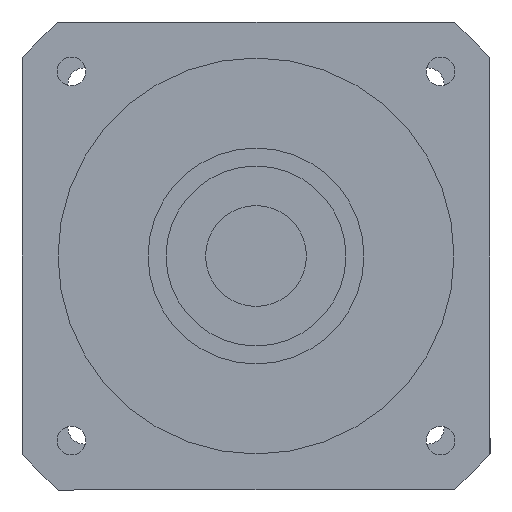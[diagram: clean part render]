
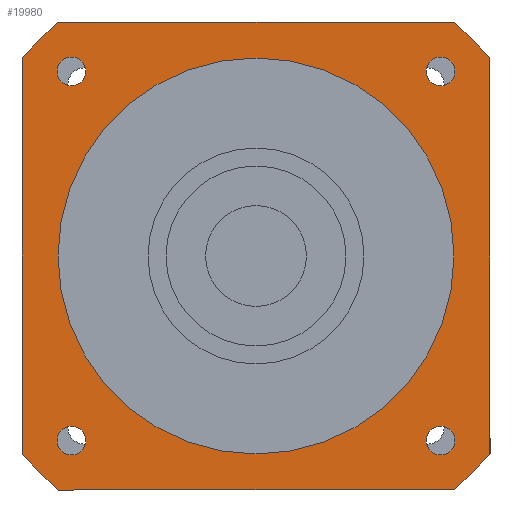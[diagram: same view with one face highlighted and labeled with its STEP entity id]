
A CAD part, left-side view. The second image highlights one B-rep face of the part: STEP entity #19980.
In plain terms, the highlighted planar face has unit normal (-1, 0, 0) as drawn and (0, 0, -1) by its records, which use the part's own axes.
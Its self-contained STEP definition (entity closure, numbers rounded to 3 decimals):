
#15990=CARTESIAN_POINT('',(54.772,65.,-138.));
#16000=VERTEX_POINT('',#15990);
#16150=CARTESIAN_POINT('',(-54.772,65.,-138.));
#16160=VERTEX_POINT('',#16150);
#16190=CARTESIAN_POINT('',(65.,65.,-138.));
#16200=DIRECTION('',(-1.,0.,0.));
#16210=VECTOR('',#16200,1000.);
#16220=LINE('',#16190,#16210);
#16230=EDGE_CURVE('',#16000,#16160,#16220,.T.);
#16390=CARTESIAN_POINT('',(-65.,54.772,-138.));
#16400=VERTEX_POINT('',#16390);
#16550=CARTESIAN_POINT('',(-65.,-54.772,-138.));
#16560=VERTEX_POINT('',#16550);
#16590=CARTESIAN_POINT('',(-65.,65.,-138.));
#16600=DIRECTION('',(0.,-1.,0.));
#16610=VECTOR('',#16600,1000.);
#16620=LINE('',#16590,#16610);
#16630=EDGE_CURVE('',#16400,#16560,#16620,.T.);
#18420=CARTESIAN_POINT('',(0.,0.,
-138.));
#18430=DIRECTION('',(0.,0.,1.));
#18440=DIRECTION('',(0.,-1.,0.));
#18450=AXIS2_PLACEMENT_3D('',#18420,#18430,#18440);
#18460=CIRCLE('',#18450,85.);
#18470=EDGE_CURVE('',#16160,#16400,#18460,.T.);
#18520=CARTESIAN_POINT('',(-65.,65.,-138.));
#18530=DIRECTION('',(0.,0.,1.));
#18540=DIRECTION('',(-1.,0.,0.));
#18550=AXIS2_PLACEMENT_3D('',#18520,#18530,#18540);
#18560=PLANE('',#18550);
#18570=CARTESIAN_POINT('',(51.265,-51.265,-138.));
#18580=DIRECTION('',(0.,0.,-1.));
#18590=DIRECTION('',(1.,0.,0.));
#18600=AXIS2_PLACEMENT_3D('',#18570,#18580,#18590);
#18610=CIRCLE('',#18600,4.);
#18620=CARTESIAN_POINT('',(55.265,-51.265,-138.));
#18630=VERTEX_POINT('',#18620);
#18640=CARTESIAN_POINT('',(51.265,-55.265,-138.));
#18650=VERTEX_POINT('',#18640);
#18660=EDGE_CURVE('',#18630,#18650,#18610,.T.);
#18670=ORIENTED_EDGE('',*,*,#18660,.F.);
#18680=CARTESIAN_POINT('',(51.265,-47.265,-138.));
#18690=VERTEX_POINT('',#18680);
#18700=EDGE_CURVE('',#18650,#18690,#18610,.T.);
#18710=ORIENTED_EDGE('',*,*,#18700,.F.);
#18720=EDGE_CURVE('',#18690,#18630,#18610,.T.);
#18730=ORIENTED_EDGE('',*,*,#18720,.F.);
#18740=EDGE_LOOP('',(#18730,#18710,#18670));
#18750=FACE_BOUND('',#18740,.T.);
#18760=CARTESIAN_POINT('',(51.265,51.265,-138.));
#18770=DIRECTION('',(0.,0.,-1.));
#18780=DIRECTION('',(0.,1.,0.));
#18790=AXIS2_PLACEMENT_3D('',#18760,#18770,#18780);
#18800=CIRCLE('',#18790,4.);
#18810=CARTESIAN_POINT('',(51.265,55.265,-138.));
#18820=VERTEX_POINT('',#18810);
#18830=CARTESIAN_POINT('',(55.265,51.265,-138.));
#18840=VERTEX_POINT('',#18830);
#18850=EDGE_CURVE('',#18820,#18840,#18800,.T.);
#18860=ORIENTED_EDGE('',*,*,#18850,.F.);
#18870=CARTESIAN_POINT('',(47.265,51.265,-138.));
#18880=VERTEX_POINT('',#18870);
#18890=EDGE_CURVE('',#18840,#18880,#18800,.T.);
#18900=ORIENTED_EDGE('',*,*,#18890,.F.);
#18910=EDGE_CURVE('',#18880,#18820,#18800,.T.);
#18920=ORIENTED_EDGE('',*,*,#18910,.F.);
#18930=EDGE_LOOP('',(#18920,#18900,#18860));
#18940=FACE_BOUND('',#18930,.T.);
#18950=CARTESIAN_POINT('',(-51.265,51.265,-138.));
#18960=DIRECTION('',(0.,0.,-1.));
#18970=DIRECTION('',(-1.,0.,0.));
#18980=AXIS2_PLACEMENT_3D('',#18950,#18960,#18970);
#18990=CIRCLE('',#18980,4.);
#19000=CARTESIAN_POINT('',(-55.265,51.265,-138.));
#19010=VERTEX_POINT('',#19000);
#19020=CARTESIAN_POINT('',(-51.265,55.265,-138.));
#19030=VERTEX_POINT('',#19020);
#19040=EDGE_CURVE('',#19010,#19030,#18990,.T.);
#19050=ORIENTED_EDGE('',*,*,#19040,.F.);
#19060=CARTESIAN_POINT('',(-51.265,47.265,-138.));
#19070=VERTEX_POINT('',#19060);
#19080=EDGE_CURVE('',#19030,#19070,#18990,.T.);
#19090=ORIENTED_EDGE('',*,*,#19080,.F.);
#19100=EDGE_CURVE('',#19070,#19010,#18990,.T.);
#19110=ORIENTED_EDGE('',*,*,#19100,.F.);
#19120=EDGE_LOOP('',(#19110,#19090,#19050));
#19130=FACE_BOUND('',#19120,.T.);
#19140=CARTESIAN_POINT('',(-51.265,-51.265,-138.));
#19150=DIRECTION('',(0.,0.,-1.));
#19160=DIRECTION('',(0.,-1.,0.));
#19170=AXIS2_PLACEMENT_3D('',#19140,#19150,#19160);
#19180=CIRCLE('',#19170,4.);
#19190=CARTESIAN_POINT('',(-51.265,-55.265,-138.));
#19200=VERTEX_POINT('',#19190);
#19210=CARTESIAN_POINT('',(-55.265,-51.265,-138.));
#19220=VERTEX_POINT('',#19210);
#19230=EDGE_CURVE('',#19200,#19220,#19180,.T.);
#19240=ORIENTED_EDGE('',*,*,#19230,.F.);
#19250=CARTESIAN_POINT('',(-47.265,-51.265,-138.));
#19260=VERTEX_POINT('',#19250);
#19270=EDGE_CURVE('',#19220,#19260,#19180,.T.);
#19280=ORIENTED_EDGE('',*,*,#19270,.F.);
#19290=EDGE_CURVE('',#19260,#19200,#19180,.T.);
#19300=ORIENTED_EDGE('',*,*,#19290,.F.);
#19310=EDGE_LOOP('',(#19300,#19280,#19240));
#19320=FACE_BOUND('',#19310,.T.);
#19330=CARTESIAN_POINT('',(0.,0.,
-138.));
#19340=DIRECTION('',(0.,0.,1.));
#19350=DIRECTION('',(0.,-1.,0.));
#19360=AXIS2_PLACEMENT_3D('',#19330,#19340,#19350);
#19370=CIRCLE('',#19360,85.);
#19380=CARTESIAN_POINT('',(-54.772,-65.,-138.));
#19390=VERTEX_POINT('',#19380);
#19400=EDGE_CURVE('',#16560,#19390,#19370,.T.);
#19410=ORIENTED_EDGE('',*,*,#19400,.F.);
#19420=CARTESIAN_POINT('',(-65.,-65.,-138.));
#19430=DIRECTION('',(1.,0.,0.));
#19440=VECTOR('',#19430,1000.);
#19450=LINE('',#19420,#19440);
#19460=CARTESIAN_POINT('',(54.772,-65.,-138.));
#19470=VERTEX_POINT('',#19460);
#19480=EDGE_CURVE('',#19390,#19470,#19450,.T.);
#19490=ORIENTED_EDGE('',*,*,#19480,.F.);
#19500=CARTESIAN_POINT('',(0.,0.,
-138.));
#19510=DIRECTION('',(0.,0.,1.));
#19520=DIRECTION('',(0.,-1.,0.));
#19530=AXIS2_PLACEMENT_3D('',#19500,#19510,#19520);
#19540=CIRCLE('',#19530,85.);
#19550=CARTESIAN_POINT('',(65.,-54.772,-138.));
#19560=VERTEX_POINT('',#19550);
#19570=EDGE_CURVE('',#19470,#19560,#19540,.T.);
#19580=ORIENTED_EDGE('',*,*,#19570,.F.);
#19590=CARTESIAN_POINT('',(65.,-65.,-138.));
#19600=DIRECTION('',(0.,1.,0.));
#19610=VECTOR('',#19600,1000.);
#19620=LINE('',#19590,#19610);
#19630=CARTESIAN_POINT('',(65.,54.772,-138.));
#19640=VERTEX_POINT('',#19630);
#19650=EDGE_CURVE('',#19560,#19640,#19620,.T.);
#19660=ORIENTED_EDGE('',*,*,#19650,.F.);
#19670=CARTESIAN_POINT('',(0.,0.,
-138.));
#19680=DIRECTION('',(0.,0.,1.));
#19690=DIRECTION('',(0.,-1.,0.));
#19700=AXIS2_PLACEMENT_3D('',#19670,#19680,#19690);
#19710=CIRCLE('',#19700,85.);
#19720=EDGE_CURVE('',#19640,#16000,#19710,.T.);
#19730=ORIENTED_EDGE('',*,*,#19720,.F.);
#19740=ORIENTED_EDGE('',*,*,#16230,.F.);
#19750=ORIENTED_EDGE('',*,*,#18470,.F.);
#19760=ORIENTED_EDGE('',*,*,#16630,.F.);
#19770=EDGE_LOOP('',(#19760,#19750,#19740,#19730,#19660,#19580,#19490,
#19410));
#19780=FACE_OUTER_BOUND('',#19770,.T.);
#19790=CARTESIAN_POINT('',(0.,0.,
-138.));
#19800=DIRECTION('',(0.,0.,1.));
#19810=DIRECTION('',(0.,-1.,0.));
#19820=AXIS2_PLACEMENT_3D('',#19790,#19800,#19810);
#19830=CIRCLE('',#19820,55.);
#19840=CARTESIAN_POINT('',(55.,0.,-138.));
#19850=VERTEX_POINT('',#19840);
#19860=CARTESIAN_POINT('',(-55.,0.,-138.));
#19870=VERTEX_POINT('',#19860);
#19880=EDGE_CURVE('',#19850,#19870,#19830,.T.);
#19890=ORIENTED_EDGE('',*,*,#19880,.T.);
#19900=CARTESIAN_POINT('',(0.,-55.,-138.));
#19910=VERTEX_POINT('',#19900);
#19920=EDGE_CURVE('',#19910,#19850,#19830,.T.);
#19930=ORIENTED_EDGE('',*,*,#19920,.T.);
#19940=EDGE_CURVE('',#19870,#19910,#19830,.T.);
#19950=ORIENTED_EDGE('',*,*,#19940,.T.);
#19960=EDGE_LOOP('',(#19950,#19930,#19890));
#19970=FACE_BOUND('',#19960,.T.);
#19980=ADVANCED_FACE('',(#18750,#18940,#19130,#19320,#19780,#19970),
#18560,.F.);
